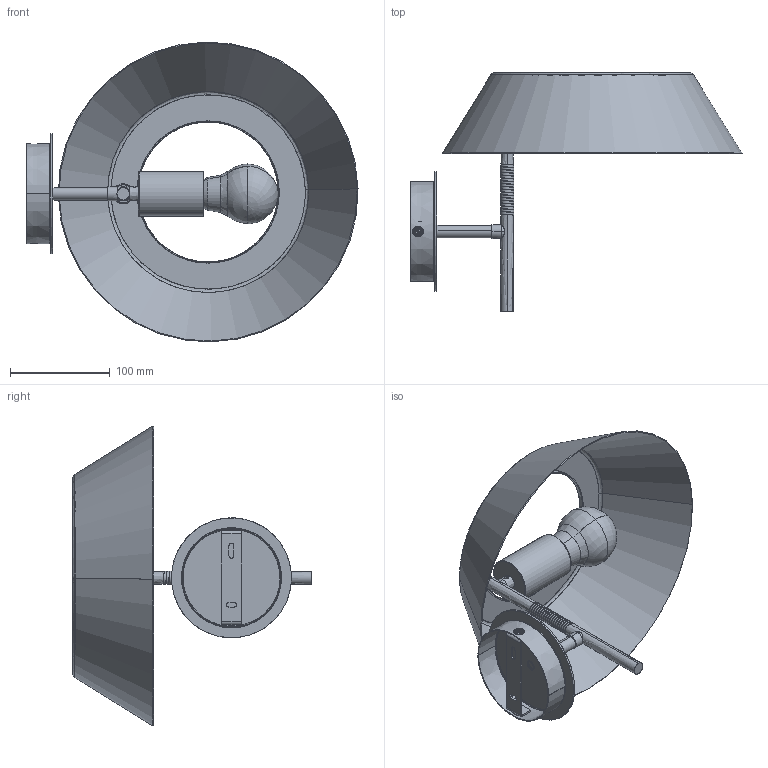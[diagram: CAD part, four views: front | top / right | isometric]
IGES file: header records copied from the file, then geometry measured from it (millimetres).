
Start section: SolidWorks IGES file using analytic representation for surfaces
Global section: file name: C:\Users\Agus\Downloads\A1287_AIDER.IGS; native system: SolidWorks 2018; preprocessor: SolidWorks 2018; author: Agus; date: 240124.153128; units: millimetre
Bounding box: 332.13 x 239 x 299.89 mm (x, y, z)
Surface area: 302552.2 mm2 (no closed solid volume)
Topology: 0 solids, 0 shells, 384 faces, 8394 edges, 8392 vertices
Faces by surface type: revolution 233, bspline 151
